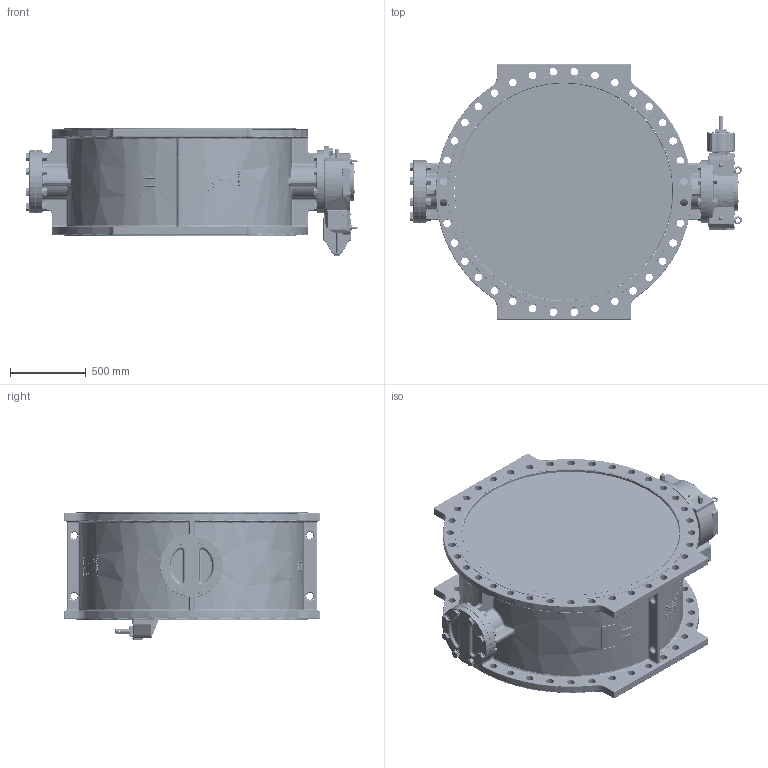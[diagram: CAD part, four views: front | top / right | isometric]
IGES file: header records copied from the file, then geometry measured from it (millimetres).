
Start section: SolidWorks IGES file using analytic representation for surfaces
Global section: file name: C:\Documents and Settings\Paji\Desktop\756140011400501\Part3.IGS; native system: SolidWorks 2008; preprocessor: SolidWorks 2008; author: paji; date: 100929.161530; units: millimetre
Bounding box: 2186.18 x 1685 x 843 mm (x, y, z)
Surface area: 12937199.6 mm2 (no closed solid volume)
Topology: 0 solids, 0 shells, 4588 faces, 71476 edges, 71408 vertices
Faces by surface type: bspline 2679, revolution 1909
